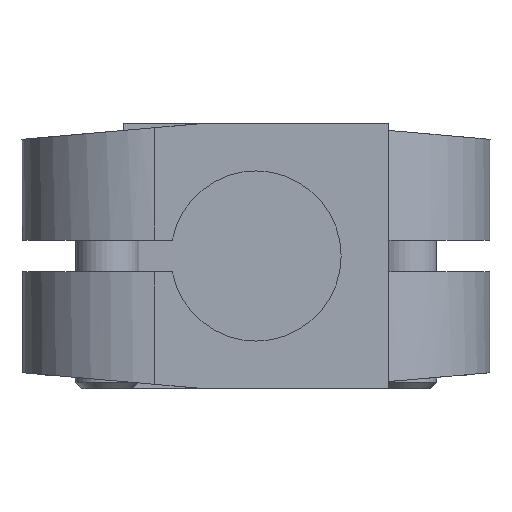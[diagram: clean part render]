
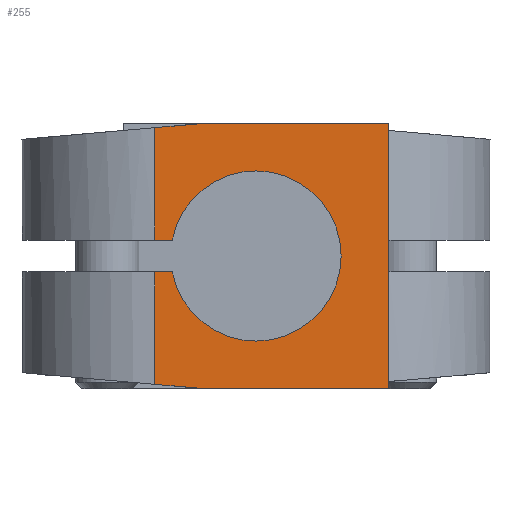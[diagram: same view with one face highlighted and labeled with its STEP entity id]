
A CAD part, left-side view. The second image highlights one B-rep face of the part: STEP entity #255.
In plain terms, the highlighted planar face has unit normal (-1, 0, 0).
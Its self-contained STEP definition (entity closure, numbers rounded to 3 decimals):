
#255 = ADVANCED_FACE( '', ( #435 ), #436, .F. );
#435 = FACE_OUTER_BOUND( '', #809, .T. );
#436 = PLANE( '', #810 );
#809 = EDGE_LOOP( '', ( #1251, #1252, #1253, #1254, #1255, #1256, #1257, #1258, #1259, #1260 ) );
#810 = AXIS2_PLACEMENT_3D( '', #1261, #1262, #1263 );
#1251 = ORIENTED_EDGE( '', *, *, #2374, .T. );
#1252 = ORIENTED_EDGE( '', *, *, #2406, .T. );
#1253 = ORIENTED_EDGE( '', *, *, #2368, .T. );
#1254 = ORIENTED_EDGE( '', *, *, #2407, .T. );
#1255 = ORIENTED_EDGE( '', *, *, #2357, .T. );
#1256 = ORIENTED_EDGE( '', *, *, #2408, .T. );
#1257 = ORIENTED_EDGE( '', *, *, #2409, .T. );
#1258 = ORIENTED_EDGE( '', *, *, #2410, .T. );
#1259 = ORIENTED_EDGE( '', *, *, #2405, .F. );
#1260 = ORIENTED_EDGE( '', *, *, #2411, .F. );
#1261 = CARTESIAN_POINT( '', ( 0., 22., 12.5 ) );
#1262 = DIRECTION( '', ( 1., 0., 0. ) );
#1263 = DIRECTION( '', ( 0., 0., -1. ) );
#2357 = EDGE_CURVE( '', #2723, #2721, #2724, .T. );
#2368 = EDGE_CURVE( '', #2737, #2741, #2743, .T. );
#2374 = EDGE_CURVE( '', #2755, #2753, #2756, .T. );
#2405 = EDGE_CURVE( '', #2809, #2806, #2811, .T. );
#2406 = EDGE_CURVE( '', #2753, #2737, #2812, .T. );
#2407 = EDGE_CURVE( '', #2741, #2723, #2813, .T. );
#2408 = EDGE_CURVE( '', #2721, #2814, #2815, .T. );
#2409 = EDGE_CURVE( '', #2814, #2816, #2817, .T. );
#2410 = EDGE_CURVE( '', #2816, #2806, #2818, .T. );
#2411 = EDGE_CURVE( '', #2755, #2809, #2819, .T. );
#2721 = VERTEX_POINT( '', #3333 );
#2723 = VERTEX_POINT( '', #3335 );
#2724 = LINE( '', #3336, #3337 );
#2737 = VERTEX_POINT( '', #3355 );
#2741 = VERTEX_POINT( '', #3360 );
#2743 = LINE( '', #3363, #3364 );
#2753 = VERTEX_POINT( '', #3378 );
#2755 = VERTEX_POINT( '', #3380 );
#2756 = LINE( '', #3381, #3382 );
#2806 = VERTEX_POINT( '', #3456 );
#2809 = VERTEX_POINT( '', #3461 );
#2811 = LINE( '', #3464, #3465 );
#2812 = LINE( '', #3466, #3467 );
#2813 = CIRCLE( '', #3468, 8. );
#2814 = VERTEX_POINT( '', #3469 );
#2815 = LINE( '', #3470, #3471 );
#2816 = VERTEX_POINT( '', #3472 );
#2817 = LINE( '', #3473, #3474 );
#2818 = LINE( '', #3475, #3476 );
#2819 = LINE( '', #3477, #3478 );
#3333 = CARTESIAN_POINT( '', ( 0., 22., -1.5 ) );
#3335 = CARTESIAN_POINT( '', ( 0., 20.358, -1.5 ) );
#3336 = CARTESIAN_POINT( '', ( 0., 12.5, -1.5 ) );
#3337 = VECTOR( '', #4350, 1000. );
#3355 = CARTESIAN_POINT( '', ( 0., 22., 1.5 ) );
#3360 = CARTESIAN_POINT( '', ( 0., 20.358, 1.5 ) );
#3363 = CARTESIAN_POINT( '', ( 0., 39.5, 1.5 ) );
#3364 = VECTOR( '', #4367, 1000. );
#3378 = CARTESIAN_POINT( '', ( 0., 22., 12.063 ) );
#3380 = CARTESIAN_POINT( '', ( 0., 17., 12.5 ) );
#3381 = CARTESIAN_POINT( '', ( 0., 17., 12.5 ) );
#3382 = VECTOR( '', #4375, 1000. );
#3456 = CARTESIAN_POINT( '', ( 0., 0., -12.5 ) );
#3461 = CARTESIAN_POINT( '', ( 0., 0., 12.5 ) );
#3464 = CARTESIAN_POINT( '', ( 0., 0., 12.5 ) );
#3465 = VECTOR( '', #4412, 1000. );
#3466 = CARTESIAN_POINT( '', ( 0., 22., 12.5 ) );
#3467 = VECTOR( '', #4413, 1000. );
#3468 = AXIS2_PLACEMENT_3D( '', #4414, #4415, #4416 );
#3469 = CARTESIAN_POINT( '', ( 0., 22., -12.063 ) );
#3470 = CARTESIAN_POINT( '', ( 0., 22., 12.5 ) );
#3471 = VECTOR( '', #4417, 1000. );
#3472 = CARTESIAN_POINT( '', ( 0., 17., -12.5 ) );
#3473 = CARTESIAN_POINT( '', ( 0., 34.5, -10.969 ) );
#3474 = VECTOR( '', #4418, 1000. );
#3475 = CARTESIAN_POINT( '', ( 0., 22., -12.5 ) );
#3476 = VECTOR( '', #4419, 1000. );
#3477 = CARTESIAN_POINT( '', ( 0., 22., 12.5 ) );
#3478 = VECTOR( '', #4420, 1000. );
#4350 = DIRECTION( '', ( 0., 1., 0. ) );
#4367 = DIRECTION( '', ( 0., -1., 0. ) );
#4375 = DIRECTION( '', ( 0., 0.996, -0.087 ) );
#4412 = DIRECTION( '', ( 0., 0., -1. ) );
#4413 = DIRECTION( '', ( 0., 0., -1. ) );
#4414 = CARTESIAN_POINT( '', ( 0., 12.5, 0. ) );
#4415 = DIRECTION( '', ( 1., 0., 0. ) );
#4416 = DIRECTION( '', ( 0., 0., -1. ) );
#4417 = DIRECTION( '', ( 0., 0., -1. ) );
#4418 = DIRECTION( '', ( 0., -0.996, -0.087 ) );
#4419 = DIRECTION( '', ( 0., -1., 0. ) );
#4420 = DIRECTION( '', ( 0., -1., 0. ) );
